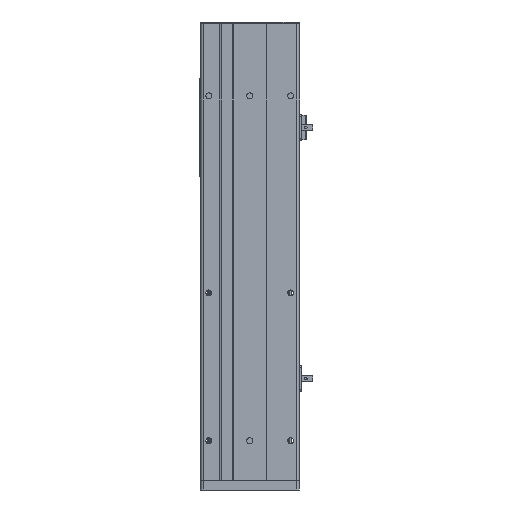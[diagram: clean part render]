
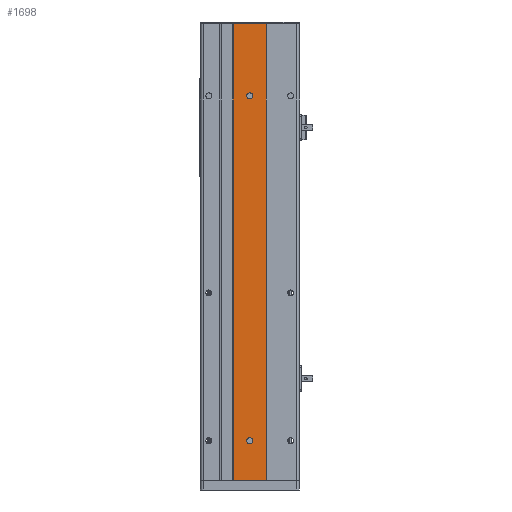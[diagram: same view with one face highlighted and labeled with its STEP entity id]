
A CAD part, front view. The second image highlights one B-rep face of the part: STEP entity #1698.
In plain terms, the highlighted planar face has unit normal (0, -1, 0).
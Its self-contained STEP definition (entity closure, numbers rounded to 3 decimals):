
#183 = VERTEX_POINT ( 'NONE', #261 ) ;
#261 = CARTESIAN_POINT ( 'NONE',  ( -16.5, 0., -231.5 ) ) ;
#288 = EDGE_LOOP ( 'NONE', ( #30351, #458 ) ) ;
#389 = DIRECTION ( 'NONE',  ( 0., 0., -1. ) ) ;
#436 = DIRECTION ( 'NONE',  ( 0., -1., 0. ) ) ;
#458 = ORIENTED_EDGE ( 'NONE', *, *, #27127, .F. ) ;
#464 = CARTESIAN_POINT ( 'NONE',  ( 0., 0., 158.5 ) ) ;
#587 = VERTEX_POINT ( 'NONE', #28529 ) ;
#979 = EDGE_LOOP ( 'NONE', ( #3173, #17986, #6490, #26022 ) ) ;
#1678 = FACE_BOUND ( 'NONE', #288, .T. ) ;
#1698 = ADVANCED_FACE ( 'NONE', ( #13273, #1678, #26248 ), #7531, .F. ) ;
#1951 = EDGE_CURVE ( 'NONE', #18994, #19306, #24345, .T. ) ;
#2559 = DIRECTION ( 'NONE',  ( 0., 0., -1. ) ) ;
#2563 = DIRECTION ( 'NONE',  ( 0., -1., 0. ) ) ;
#2567 = AXIS2_PLACEMENT_3D ( 'NONE', #16147, #16118, #16078 ) ;
#2596 = CARTESIAN_POINT ( 'NONE',  ( 0., 0., 158.5 ) ) ;
#2984 = LINE ( 'NONE', #17499, #11152 ) ;
#3173 = ORIENTED_EDGE ( 'NONE', *, *, #27443, .T. ) ;
#3972 = ORIENTED_EDGE ( 'NONE', *, *, #7727, .F. ) ;
#5185 = DIRECTION ( 'NONE',  ( 1., 0., 0. ) ) ;
#6334 = VERTEX_POINT ( 'NONE', #13981 ) ;
#6490 = ORIENTED_EDGE ( 'NONE', *, *, #21629, .F. ) ;
#6532 = AXIS2_PLACEMENT_3D ( 'NONE', #7826, #8163, #7467 ) ;
#6668 = DIRECTION ( 'NONE',  ( 0., 0., -1. ) ) ;
#6740 = EDGE_CURVE ( 'NONE', #22631, #183, #14170, .T. ) ;
#6833 = CARTESIAN_POINT ( 'NONE',  ( -16.5, 0., 231.5 ) ) ;
#6956 = LINE ( 'NONE', #17889, #12761 ) ;
#7352 = CARTESIAN_POINT ( 'NONE',  ( -16.5, 0., 231.5 ) ) ;
#7467 = DIRECTION ( 'NONE',  ( 0., 0., 1. ) ) ;
#7531 = PLANE ( 'NONE',  #6532 ) ;
#7727 = EDGE_CURVE ( 'NONE', #19306, #18994, #19041, .T. ) ;
#7826 = CARTESIAN_POINT ( 'NONE',  ( -16.5, 0., 231.5 ) ) ;
#8163 = DIRECTION ( 'NONE',  ( 0., 1., 0. ) ) ;
#8915 = DIRECTION ( 'NONE',  ( 0., 0., -1. ) ) ;
#8967 = DIRECTION ( 'NONE',  ( 0., -1., 0. ) ) ;
#9099 = CARTESIAN_POINT ( 'NONE',  ( 0., 0., -191.5 ) ) ;
#9492 = EDGE_CURVE ( 'NONE', #587, #6334, #6956, .T. ) ;
#9776 = DIRECTION ( 'NONE',  ( 1., 0., 0. ) ) ;
#11152 = VECTOR ( 'NONE', #5185, 1000. ) ;
#12505 = CARTESIAN_POINT ( 'NONE',  ( 0., 0., -188.5 ) ) ;
#12761 = VECTOR ( 'NONE', #17605, 1000. ) ;
#12783 = AXIS2_PLACEMENT_3D ( 'NONE', #464, #436, #389 ) ;
#13273 = FACE_BOUND ( 'NONE', #29802, .T. ) ;
#13405 = VECTOR ( 'NONE', #6668, 1000. ) ;
#13495 = VERTEX_POINT ( 'NONE', #27514 ) ;
#13546 = AXIS2_PLACEMENT_3D ( 'NONE', #2596, #2563, #2559 ) ;
#13981 = CARTESIAN_POINT ( 'NONE',  ( 16.5, 0., -231.5 ) ) ;
#14170 = LINE ( 'NONE', #6833, #13405 ) ;
#15104 = CIRCLE ( 'NONE', #12783, 3. ) ;
#15735 = AXIS2_PLACEMENT_3D ( 'NONE', #9099, #8967, #8915 ) ;
#16078 = DIRECTION ( 'NONE',  ( 0., 0., -1. ) ) ;
#16118 = DIRECTION ( 'NONE',  ( 0., -1., 0. ) ) ;
#16147 = CARTESIAN_POINT ( 'NONE',  ( 0., 0., -191.5 ) ) ;
#17499 = CARTESIAN_POINT ( 'NONE',  ( -16.5, 0., -231.5 ) ) ;
#17532 = EDGE_CURVE ( 'NONE', #13495, #27454, #15104, .T. ) ;
#17604 = CARTESIAN_POINT ( 'NONE',  ( 0., 0., 161.5 ) ) ;
#17605 = DIRECTION ( 'NONE',  ( 0., 0., -1. ) ) ;
#17889 = CARTESIAN_POINT ( 'NONE',  ( 16.5, 0., 231.5 ) ) ;
#17986 = ORIENTED_EDGE ( 'NONE', *, *, #9492, .F. ) ;
#18633 = CARTESIAN_POINT ( 'NONE',  ( 0., 0., -194.5 ) ) ;
#18994 = VERTEX_POINT ( 'NONE', #18633 ) ;
#19041 = CIRCLE ( 'NONE', #15735, 3. ) ;
#19306 = VERTEX_POINT ( 'NONE', #12505 ) ;
#21629 = EDGE_CURVE ( 'NONE', #22631, #587, #29216, .T. ) ;
#22128 = VECTOR ( 'NONE', #9776, 1000. ) ;
#22260 = CIRCLE ( 'NONE', #13546, 3. ) ;
#22631 = VERTEX_POINT ( 'NONE', #7352 ) ;
#23590 = CARTESIAN_POINT ( 'NONE',  ( -16.5, 0., 231.5 ) ) ;
#24345 = CIRCLE ( 'NONE', #2567, 3. ) ;
#26022 = ORIENTED_EDGE ( 'NONE', *, *, #6740, .T. ) ;
#26248 = FACE_OUTER_BOUND ( 'NONE', #979, .T. ) ;
#27127 = EDGE_CURVE ( 'NONE', #27454, #13495, #22260, .T. ) ;
#27443 = EDGE_CURVE ( 'NONE', #183, #6334, #2984, .T. ) ;
#27454 = VERTEX_POINT ( 'NONE', #17604 ) ;
#27514 = CARTESIAN_POINT ( 'NONE',  ( 0., 0., 155.5 ) ) ;
#28529 = CARTESIAN_POINT ( 'NONE',  ( 16.5, 0., 231.5 ) ) ;
#28855 = ORIENTED_EDGE ( 'NONE', *, *, #1951, .F. ) ;
#29216 = LINE ( 'NONE', #23590, #22128 ) ;
#29802 = EDGE_LOOP ( 'NONE', ( #28855, #3972 ) ) ;
#30351 = ORIENTED_EDGE ( 'NONE', *, *, #17532, .F. ) ;
